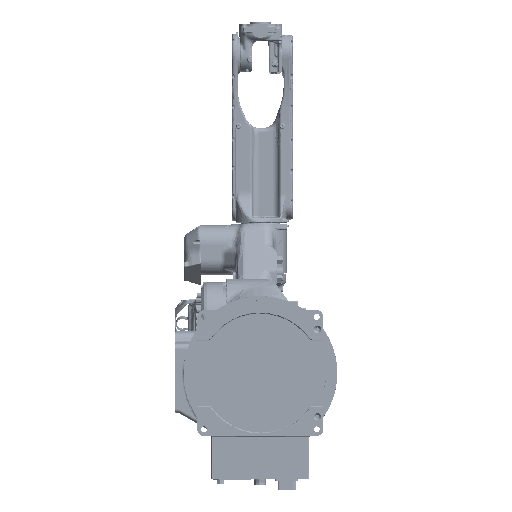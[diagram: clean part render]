
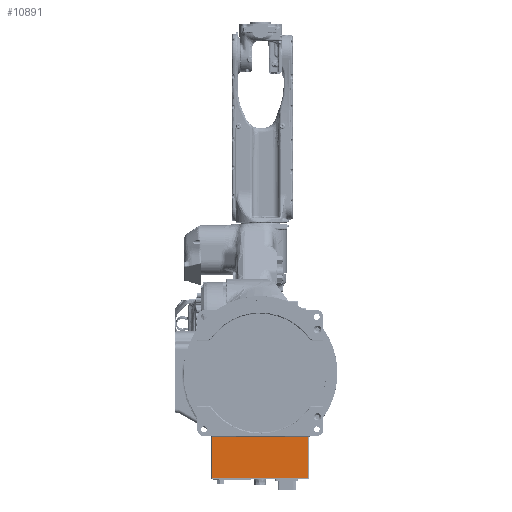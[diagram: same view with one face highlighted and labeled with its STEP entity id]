
A CAD part, front view. The second image highlights one B-rep face of the part: STEP entity #10891.
In plain terms, the highlighted planar face has unit normal (0, -1, 0).
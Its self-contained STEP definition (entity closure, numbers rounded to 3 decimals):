
#4476=LINE('',#134475,#6673);
#6673=VECTOR('',#106168,1.);
#8827=PLANE('',#103190);
#10891=ADVANCED_FACE('',(#19786),#8827,.T.);
#19786=FACE_OUTER_BOUND('',#26051,.T.);
#26051=EDGE_LOOP('',(#33827,#33828,#33829,#33830));
#33827=ORIENTED_EDGE('',*,*,#75363,.T.);
#33828=ORIENTED_EDGE('',*,*,#75364,.T.);
#33829=ORIENTED_EDGE('',*,*,#75173,.F.);
#33830=ORIENTED_EDGE('',*,*,#75365,.T.);
#65107=VERTEX_POINT('',#129227);
#65108=VERTEX_POINT('',#129228);
#65194=VERTEX_POINT('',#134476);
#65195=VERTEX_POINT('',#134477);
#75173=EDGE_CURVE('',#65107,#65108,#91117,.T.);
#75363=EDGE_CURVE('',#65194,#65195,#4476,.T.);
#75364=EDGE_CURVE('',#65195,#65108,#91266,.T.);
#75365=EDGE_CURVE('',#65107,#65194,#91267,.T.);
#91117=B_SPLINE_CURVE_WITH_KNOTS('',3,(#129223,#129224,#129225,#129226),
 .UNSPECIFIED.,.F.,.F.,(4,4),(0.,1.),.UNSPECIFIED.);
#91266=B_SPLINE_CURVE_WITH_KNOTS('',3,(#134478,#134479,#134480,#134481),
 .UNSPECIFIED.,.F.,.F.,(4,4),(0.,1.),.UNSPECIFIED.);
#91267=B_SPLINE_CURVE_WITH_KNOTS('',3,(#134482,#134483,#134484,#134485),
 .UNSPECIFIED.,.F.,.F.,(4,4),(0.,1.),.UNSPECIFIED.);
#103190=AXIS2_PLACEMENT_3D('',#134486,#106169,#106170);
#106168=DIRECTION('',(1.,0.,0.));
#106169=DIRECTION('',(0.,-1.,0.));
#106170=DIRECTION('',(-1.,0.,0.));
#129223=CARTESIAN_POINT('',(-143.,5.,-190.5));
#129224=CARTESIAN_POINT('',(-47.667,5.,-190.5));
#129225=CARTESIAN_POINT('',(47.667,5.,-190.5));
#129226=CARTESIAN_POINT('',(143.,5.,-190.5));
#129227=CARTESIAN_POINT('',(-143.,5.,-190.5));
#129228=CARTESIAN_POINT('',(143.,5.,-190.5));
#134475=CARTESIAN_POINT('',(0.,5.,-313.));
#134476=CARTESIAN_POINT('',(-143.,5.,-313.));
#134477=CARTESIAN_POINT('',(143.,5.,-313.));
#134478=CARTESIAN_POINT('',(143.,5.,-313.));
#134479=CARTESIAN_POINT('',(143.,5.,-272.167));
#134480=CARTESIAN_POINT('',(143.,5.,-231.333));
#134481=CARTESIAN_POINT('',(143.,5.,-190.5));
#134482=CARTESIAN_POINT('',(-143.,5.,-190.5));
#134483=CARTESIAN_POINT('',(-143.,5.,-231.333));
#134484=CARTESIAN_POINT('',(-143.,5.,-272.167));
#134485=CARTESIAN_POINT('',(-143.,5.,-313.));
#134486=CARTESIAN_POINT('',(148.72,5.,-188.05));
